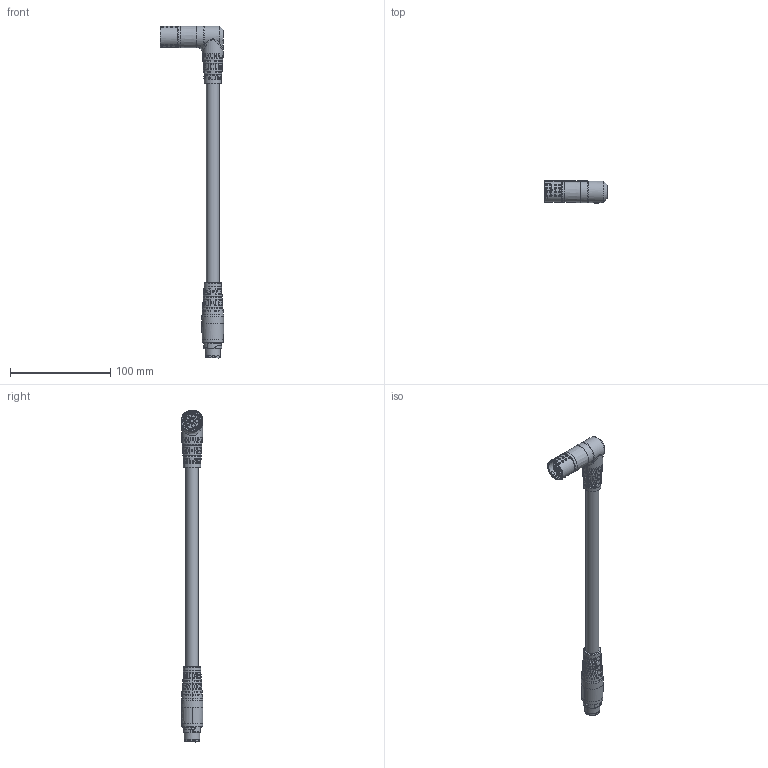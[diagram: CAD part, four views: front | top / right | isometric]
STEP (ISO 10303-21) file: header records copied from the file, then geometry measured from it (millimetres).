
FILE_DESCRIPTION (( 'STEP AP203' ), '1' );
FILE_NAME ('1137646_W-TEC_15M_STI_BU-90°L_STEP.STEP', '2023-09-07T04:56:39', ( '' ), ( '' ), 'SwSTEP 2.0', 'SolidWorks 2021', '' );
FILE_SCHEMA (( 'CONFIG_CONTROL_DESIGN' ));
Length unit declared in the file: millimetre
Products named in the file (1): 1137646_W-TEC_15M_STI_BU-90袂_STEP
Bounding box: 63.15 x 21.84 x 331.3 mm (x, y, z)
Surface area: 24287.2 mm2 (no closed solid volume)
Topology: 0 solids, 26 shells, 688 faces, 2899 edges, 2058 vertices
Faces by surface type: bspline 364, plane 144, cylinder 113, cone 60, torus 7
Full cylindrical faces by diameter (mm): 1.6 x3, 3.3 x6, 4.2 x3, 4.4 x3, 12.8 x1, 15.2 x1, 15.4 x1, 16.8 x1, 17.384 x1, 17.397 x1, 21.038 x1, 21.24 x1, 21.72 x2
Entity records: 52085 total; most frequent: CARTESIAN_POINT 34003, ORIENTED_EDGE 4118, EDGE_CURVE 2774, DIRECTION 2373, VERTEX_POINT 2031, B_SPLINE_CURVE_WITH_KNOTS 1388, AXIS2_PLACEMENT_3D 891, EDGE_LOOP 813
